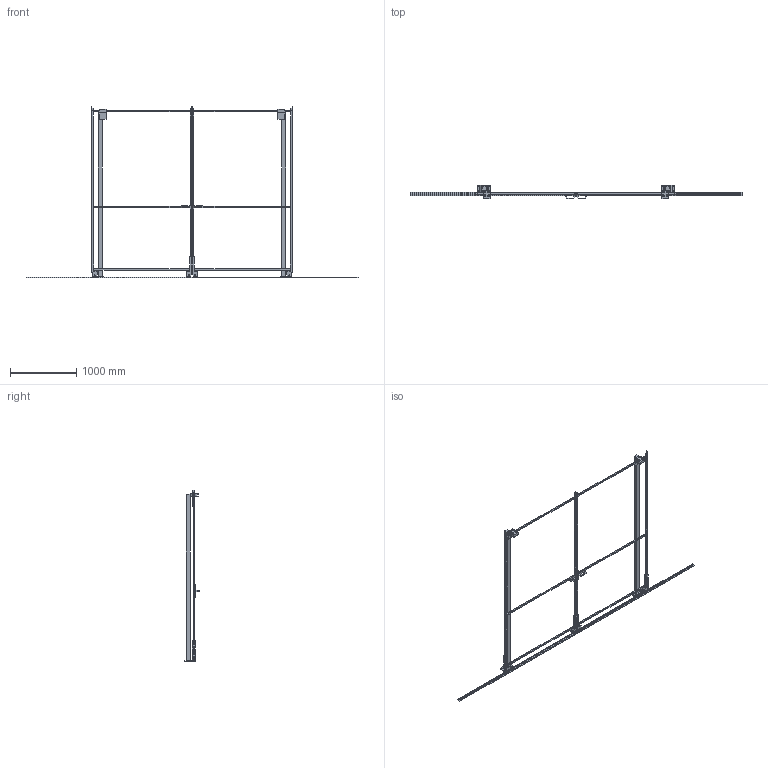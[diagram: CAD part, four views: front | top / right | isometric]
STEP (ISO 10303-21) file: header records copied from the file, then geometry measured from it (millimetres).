
FILE_DESCRIPTION(/* description */ (''),/* implementation_level */ '2;1');
FILE_NAME(/* name */ 'C:\SafeGuarding\ELABORATI\Drawing4_2025-05-14-14-27-46.stp',/* time_stamp */ '2025-05-14T14:27:46+02:00',/* author */ ('admin'),/* organization */ (''),/* preprocessor_version */ 'ST-DEVELOPER v18.1',/* originating_system */ 'AutoCAD Mechanical',/* authorisation */ '');
FILE_SCHEMA (('AUTOMOTIVE_DESIGN { 1 0 10303 214 3 1 1 }'));
Length unit declared in the file: millimetre
Products named in the file (3): Product; VFPA.REPE2015002400; P_VFMA.V260SDU.2520
Assembly tree (4 placements, depth 2):
  Product
    VFPA.REPE2015002400  x2
    P_VFMA.V260SDU.2520  x2
Bounding box: 5000 x 211.4 x 2590 mm (x, y, z)
Volume: 28486517.8 mm3; surface area: 4108071.8 mm2
Topology: 44 solids, 66 shells, 472 faces, 1568 edges, 1496 vertices
Faces by surface type: plane 408, cylinder 56, cone 8
Full cylindrical faces by diameter (mm): 9 x8, 11 x8, 13 x8, 14 x4, 18 x8, 30 x4, 36 x8, 58 x8
Entity records: 15165 total; most frequent: CARTESIAN_POINT 3230, DIRECTION 2279, ORIENTED_EDGE 2176, EDGE_CURVE 1186, LINE 1001, VECTOR 1001, VERTEX_POINT 872, AXIS2_PLACEMENT_3D 639
